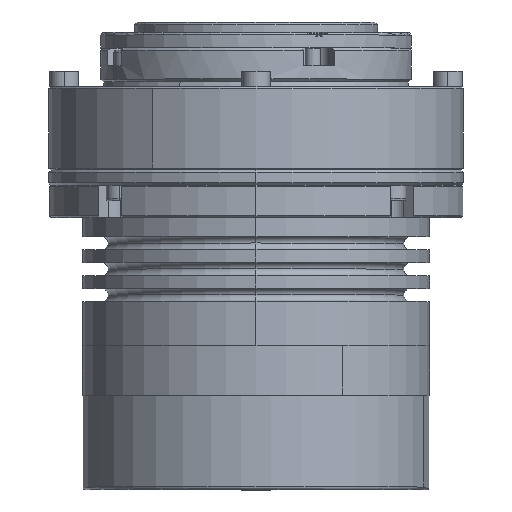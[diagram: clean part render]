
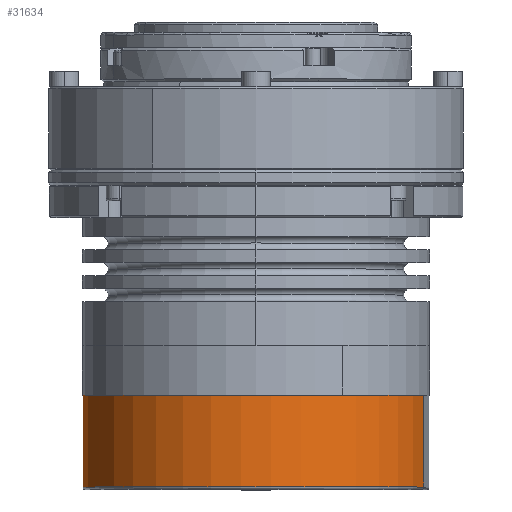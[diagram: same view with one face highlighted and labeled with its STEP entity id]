
A CAD part, top view. The second image highlights one B-rep face of the part: STEP entity #31634.
In plain terms, the highlighted cylindrical face has radius 33.5 mm (diameter 67 mm), a partial arc.
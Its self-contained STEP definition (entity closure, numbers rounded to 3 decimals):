
#1481 = VERTEX_POINT ( 'NONE', #38361 ) ;
#2223 = DIRECTION ( 'NONE',  ( 0., 0., -1. ) ) ;
#5989 = CARTESIAN_POINT ( 'NONE',  ( -33.5, 0., -18.2 ) ) ;
#6379 = EDGE_CURVE ( 'NONE', #16287, #42994, #23780, .T. ) ;
#7206 = VERTEX_POINT ( 'NONE', #10217 ) ;
#10217 = CARTESIAN_POINT ( 'NONE',  ( 33.5, 0., -18.2 ) ) ;
#14189 = CIRCLE ( 'NONE', #38122, 33.5 ) ;
#16287 = VERTEX_POINT ( 'NONE', #5989 ) ;
#16724 = CYLINDRICAL_SURFACE ( 'NONE', #26552, 33.5 ) ;
#16988 = DIRECTION ( 'NONE',  ( 1., 0., 0. ) ) ;
#20274 = DIRECTION ( 'NONE',  ( 0., 0., 1. ) ) ;
#20613 = DIRECTION ( 'NONE',  ( 0., 0., 1. ) ) ;
#21090 = EDGE_CURVE ( 'NONE', #42994, #1481, #14189, .T. ) ;
#21266 = VECTOR ( 'NONE', #20613, 1000. ) ;
#21277 = DIRECTION ( 'NONE',  ( 0., 0., 1. ) ) ;
#23780 = LINE ( 'NONE', #32029, #37378 ) ;
#23884 = CARTESIAN_POINT ( 'NONE',  ( -33.5, 0., -0.5 ) ) ;
#24074 = EDGE_CURVE ( 'NONE', #7206, #1481, #35879, .T. ) ;
#24650 = CARTESIAN_POINT ( 'NONE',  ( 33.5, 0., 21.794 ) ) ;
#26552 = AXIS2_PLACEMENT_3D ( 'NONE', #33833, #21277, #16988 ) ;
#31634 = ADVANCED_FACE ( 'NONE', ( #37318 ), #16724, .T. ) ;
#32029 = CARTESIAN_POINT ( 'NONE',  ( -33.5, 0., 21.794 ) ) ;
#33833 = CARTESIAN_POINT ( 'NONE',  ( 0., 0., 21.794 ) ) ;
#34732 = AXIS2_PLACEMENT_3D ( 'NONE', #44712, #36155, #40686 ) ;
#35879 = LINE ( 'NONE', #24650, #21266 ) ;
#36155 = DIRECTION ( 'NONE',  ( 0., 0., 1. ) ) ;
#37083 = ORIENTED_EDGE ( 'NONE', *, *, #6379, .T. ) ;
#37318 = FACE_OUTER_BOUND ( 'NONE', #50068, .T. ) ;
#37378 = VECTOR ( 'NONE', #20274, 1000. ) ;
#38122 = AXIS2_PLACEMENT_3D ( 'NONE', #51344, #2223, #46565 ) ;
#38361 = CARTESIAN_POINT ( 'NONE',  ( 33.5, 0., -0.5 ) ) ;
#40686 = DIRECTION ( 'NONE',  ( 1., 0., 0. ) ) ;
#42994 = VERTEX_POINT ( 'NONE', #23884 ) ;
#44712 = CARTESIAN_POINT ( 'NONE',  ( 0., 0., -18.2 ) ) ;
#46565 = DIRECTION ( 'NONE',  ( 1., 0., 0. ) ) ;
#48066 = ORIENTED_EDGE ( 'NONE', *, *, #48539, .T. ) ;
#48539 = EDGE_CURVE ( 'NONE', #7206, #16287, #52655, .T. ) ;
#50068 = EDGE_LOOP ( 'NONE', ( #48066, #37083, #50344, #50229 ) ) ;
#50229 = ORIENTED_EDGE ( 'NONE', *, *, #24074, .F. ) ;
#50344 = ORIENTED_EDGE ( 'NONE', *, *, #21090, .T. ) ;
#51344 = CARTESIAN_POINT ( 'NONE',  ( 0., 0., -0.5 ) ) ;
#52655 = CIRCLE ( 'NONE', #34732, 33.5 ) ;
